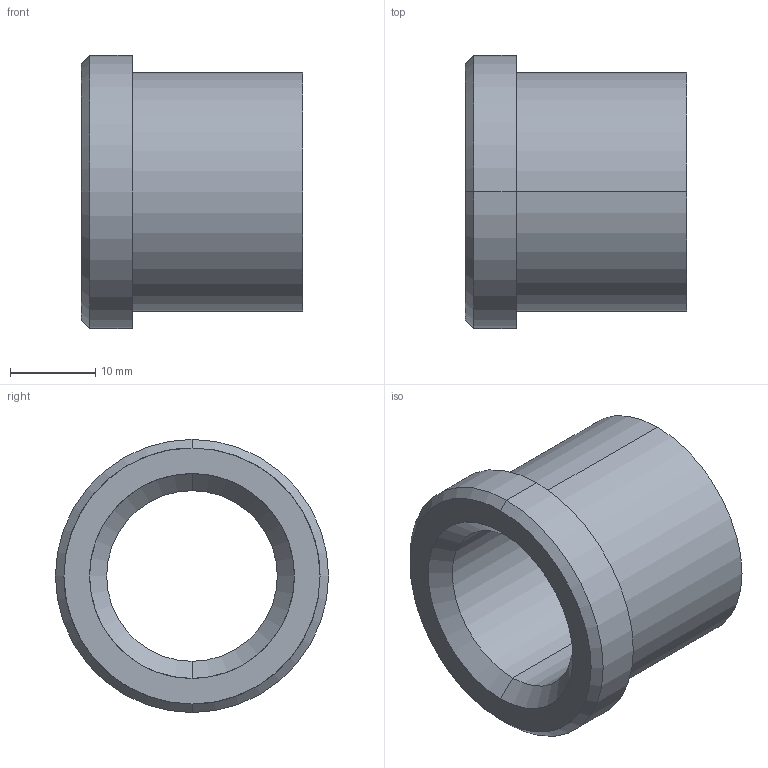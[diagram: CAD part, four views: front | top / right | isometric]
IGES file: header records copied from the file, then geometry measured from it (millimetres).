
Start section: START RECORD GO HERE.
Global section: file name: 353-20X26.igs; native system: DASSAULT SYSTEMES CATIA V5 R20 - www.3ds.com; preprocessor: CATIA Version 5 Release 20 ; author: Utente; organization: NB04-ASUS; date: 20210511.165123; units: millimetre
Bounding box: 26 x 32 x 32 mm (x, y, z)
Surface area: 4808.2 mm2 (no closed solid volume)
Topology: 0 solids, 0 shells, 15 faces, 96 edges, 96 vertices
Faces by surface type: revolution 12, plane 3
